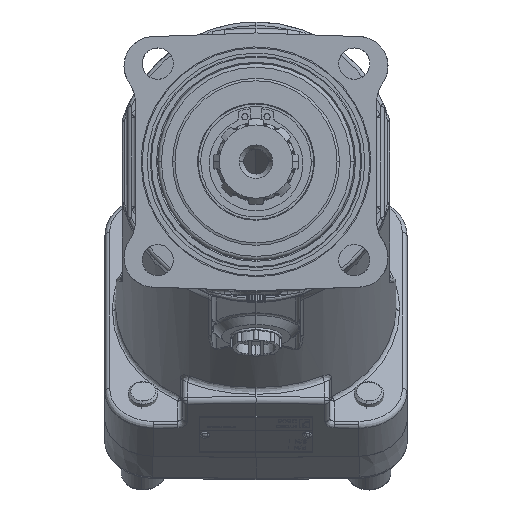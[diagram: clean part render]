
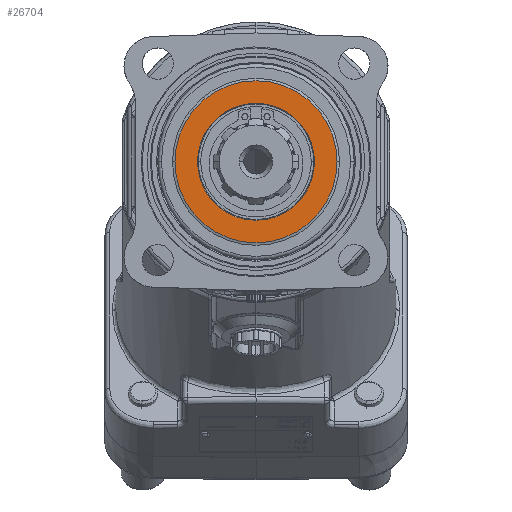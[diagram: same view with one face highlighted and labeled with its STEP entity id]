
A CAD part, top view. The second image highlights one B-rep face of the part: STEP entity #26704.
In plain terms, the highlighted planar face has unit normal (0, 0, 1).
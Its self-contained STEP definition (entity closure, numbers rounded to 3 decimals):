
#5539 = EDGE_CURVE ( 'NONE', #38184, #38131, #28771, .T. ) ;
#5757 = EDGE_CURVE ( 'NONE', #38274, #38205, #17442, .T. ) ;
#5805 = EDGE_CURVE ( 'NONE', #38205, #38274, #17362, .T. ) ;
#5874 = EDGE_CURVE ( 'NONE', #38131, #38184, #17307, .T. ) ;
#5911 = AXIS2_PLACEMENT_3D ( 'NONE', #39435, #39433, #39432 ) ;
#5982 = AXIS2_PLACEMENT_3D ( 'NONE', #40915, #40914, #40913 ) ;
#5999 = AXIS2_PLACEMENT_3D ( 'NONE', #50922, #50923, #50924 ) ;
#6023 = AXIS2_PLACEMENT_3D ( 'NONE', #54010, #55045, #55412 ) ;
#7464 = AXIS2_PLACEMENT_3D ( 'NONE', #19511, #19509, #19507 ) ;
#8821 = FACE_OUTER_BOUND ( 'NONE', #40569, .T. ) ;
#8822 = FACE_BOUND ( 'NONE', #40581, .T. ) ;
#9700 = ORIENTED_EDGE ( 'NONE', *, *, #5874, .F. ) ;
#9979 = ORIENTED_EDGE ( 'NONE', *, *, #5539, .F. ) ;
#10039 = ORIENTED_EDGE ( 'NONE', *, *, #5757, .T. ) ;
#10085 = ORIENTED_EDGE ( 'NONE', *, *, #5805, .T. ) ;
#17307 = CIRCLE ( 'NONE', #6023, 23.8 ) ;
#17362 = CIRCLE ( 'NONE', #5999, 33. ) ;
#17442 = CIRCLE ( 'NONE', #5982, 33. ) ;
#19507 = DIRECTION ( 'NONE',  ( -1., 0., 0. ) ) ;
#19509 = DIRECTION ( 'NONE',  ( 0., 0., -1. ) ) ;
#19511 = CARTESIAN_POINT ( 'NONE',  ( 0., 33., 104.2 ) ) ;
#19513 = PLANE ( 'NONE',  #7464 ) ;
#24388 = CARTESIAN_POINT ( 'NONE',  ( -23.8, 0., 104.2 ) ) ;
#24441 = CARTESIAN_POINT ( 'NONE',  ( 23.8, 0., 104.2 ) ) ;
#24462 = CARTESIAN_POINT ( 'NONE',  ( -33., 0., 104.2 ) ) ;
#24531 = CARTESIAN_POINT ( 'NONE',  ( 33., 0., 104.2 ) ) ;
#26704 = ADVANCED_FACE ( 'NONE', ( #8822, #8821 ), #19513, .F. ) ;
#28771 = CIRCLE ( 'NONE', #5911, 23.8 ) ;
#38131 = VERTEX_POINT ( 'NONE', #24388 ) ;
#38184 = VERTEX_POINT ( 'NONE', #24441 ) ;
#38205 = VERTEX_POINT ( 'NONE', #24462 ) ;
#38274 = VERTEX_POINT ( 'NONE', #24531 ) ;
#39432 = DIRECTION ( 'NONE',  ( 1., 0., 0. ) ) ;
#39433 = DIRECTION ( 'NONE',  ( 0., 0., 1. ) ) ;
#39435 = CARTESIAN_POINT ( 'NONE',  ( 0., 0., 104.2 ) ) ;
#40569 = EDGE_LOOP ( 'NONE', ( #10085, #10039 ) ) ;
#40581 = EDGE_LOOP ( 'NONE', ( #9979, #9700 ) ) ;
#40913 = DIRECTION ( 'NONE',  ( 1., 0., 0. ) ) ;
#40914 = DIRECTION ( 'NONE',  ( 0., 0., 1. ) ) ;
#40915 = CARTESIAN_POINT ( 'NONE',  ( 0., 0., 104.2 ) ) ;
#50922 = CARTESIAN_POINT ( 'NONE',  ( 0., 0., 104.2 ) ) ;
#50923 = DIRECTION ( 'NONE',  ( 0., 0., 1. ) ) ;
#50924 = DIRECTION ( 'NONE',  ( 1., 0., 0. ) ) ;
#54010 = CARTESIAN_POINT ( 'NONE',  ( 0., 0., 104.2 ) ) ;
#55045 = DIRECTION ( 'NONE',  ( 0., 0., 1. ) ) ;
#55412 = DIRECTION ( 'NONE',  ( 1., 0., 0. ) ) ;
